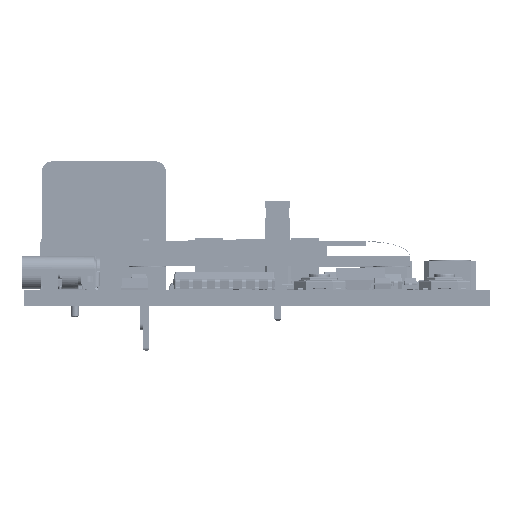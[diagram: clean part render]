
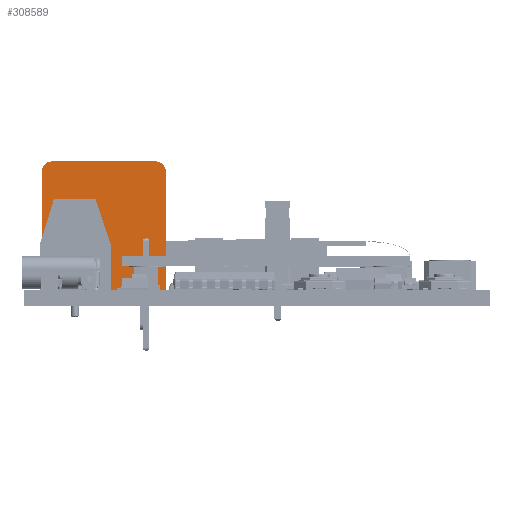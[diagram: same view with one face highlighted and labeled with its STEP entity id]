
A CAD part, left-side view. The second image highlights one B-rep face of the part: STEP entity #308589.
In plain terms, the highlighted planar face has unit normal (-1, 0, 0) as drawn and (0, 0, -1) by its records, which use the part's own axes.
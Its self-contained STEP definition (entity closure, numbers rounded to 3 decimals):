
#308589 = ADVANCED_FACE('',(#308590),#308642,.T.);
#308590 = FACE_BOUND('',#308591,.T.);
#308591 = EDGE_LOOP('',(#308592,#308602,#308610,#308618,#308627,#308635)
  );
#308592 = ORIENTED_EDGE('',*,*,#308593,.T.);
#308593 = EDGE_CURVE('',#308594,#308596,#308598,.T.);
#308594 = VERTEX_POINT('',#308595);
#308595 = CARTESIAN_POINT('',(6.,11.4,-0.463));
#308596 = VERTEX_POINT('',#308597);
#308597 = CARTESIAN_POINT('',(6.,0.,-0.463));
#308598 = LINE('',#308599,#308600);
#308599 = CARTESIAN_POINT('',(6.,11.4,-0.463));
#308600 = VECTOR('',#308601,1.);
#308601 = DIRECTION('',(-0.,-1.,-0.));
#308602 = ORIENTED_EDGE('',*,*,#308603,.T.);
#308603 = EDGE_CURVE('',#308596,#308604,#308606,.T.);
#308604 = VERTEX_POINT('',#308605);
#308605 = CARTESIAN_POINT('',(-6.,0.,-0.463));
#308606 = LINE('',#308607,#308608);
#308607 = CARTESIAN_POINT('',(-5.,0.,-0.463));
#308608 = VECTOR('',#308609,1.);
#308609 = DIRECTION('',(-1.,0.,-0.));
#308610 = ORIENTED_EDGE('',*,*,#308611,.T.);
#308611 = EDGE_CURVE('',#308604,#308612,#308614,.T.);
#308612 = VERTEX_POINT('',#308613);
#308613 = CARTESIAN_POINT('',(-6.,11.4,-0.463));
#308614 = LINE('',#308615,#308616);
#308615 = CARTESIAN_POINT('',(-6.,11.4,-0.463));
#308616 = VECTOR('',#308617,1.);
#308617 = DIRECTION('',(0.,1.,0.));
#308618 = ORIENTED_EDGE('',*,*,#308619,.T.);
#308619 = EDGE_CURVE('',#308612,#308620,#308622,.T.);
#308620 = VERTEX_POINT('',#308621);
#308621 = CARTESIAN_POINT('',(-5.,12.4,-0.463));
#308622 = CIRCLE('',#308623,1.);
#308623 = AXIS2_PLACEMENT_3D('',#308624,#308625,#308626);
#308624 = CARTESIAN_POINT('',(-5.,11.4,-0.463));
#308625 = DIRECTION('',(0.,0.,-1.));
#308626 = DIRECTION('',(-1.,0.,0.));
#308627 = ORIENTED_EDGE('',*,*,#308628,.T.);
#308628 = EDGE_CURVE('',#308620,#308629,#308631,.T.);
#308629 = VERTEX_POINT('',#308630);
#308630 = CARTESIAN_POINT('',(5.,12.4,-0.463));
#308631 = LINE('',#308632,#308633);
#308632 = CARTESIAN_POINT('',(-5.,12.4,-0.463));
#308633 = VECTOR('',#308634,1.);
#308634 = DIRECTION('',(1.,-0.,0.));
#308635 = ORIENTED_EDGE('',*,*,#308636,.T.);
#308636 = EDGE_CURVE('',#308629,#308594,#308637,.T.);
#308637 = CIRCLE('',#308638,1.);
#308638 = AXIS2_PLACEMENT_3D('',#308639,#308640,#308641);
#308639 = CARTESIAN_POINT('',(5.,11.4,-0.463));
#308640 = DIRECTION('',(0.,0.,-1.));
#308641 = DIRECTION('',(-1.,0.,0.));
#308642 = PLANE('',#308643);
#308643 = AXIS2_PLACEMENT_3D('',#308644,#308645,#308646);
#308644 = CARTESIAN_POINT('',(-5.,11.4,-0.463));
#308645 = DIRECTION('',(0.,0.,-1.));
#308646 = DIRECTION('',(-1.,0.,-0.));
